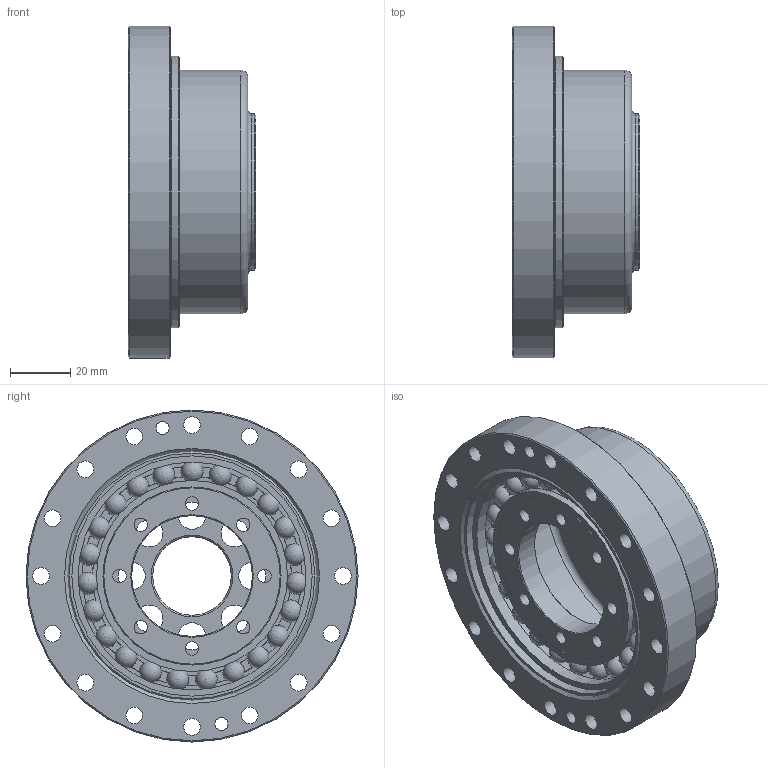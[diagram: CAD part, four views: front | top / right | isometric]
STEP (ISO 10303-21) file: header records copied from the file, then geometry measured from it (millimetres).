
FILE_DESCRIPTION(/* description */ (''),/* implementation_level */ '2;1');
FILE_NAME(/* name */ 'Getriebeset_CTG_81_HS.stp',/* time_stamp */ '2026-03-09T10:53:52+01:00',/* author */ (''),/* organization */ (''),/* preprocessor_version */ 'ST-DEVELOPER v19.4',/* originating_system */ 'SIEMENS PLM Software NX2212.9120',/* authorisation */ '');
FILE_SCHEMA (('AUTOMOTIVE_DESIGN { 1 0 10303 214 3 1 1 1 }'));
Length unit declared in the file: millimetre
Products named in the file (1): Getriebeset_CTG_81_HS
Bounding box: 42.4 x 110 x 110 mm (x, y, z)
Volume: 101166.6 mm3; surface area: 77720.4 mm2
Topology: 29 solids, 29 shells, 223 faces, 637 edges, 432 vertices
Faces by surface type: cylinder 93, plane 59, sphere 27, bspline 21, cone 15, torus 8
Full cylindrical faces by diameter (mm): 4.3 x4, 4.5 x8, 5.5 x16, 9 x8, 26 x1, 40 x1, 52 x1, 55 x1, 59 x2, 63 x1, 63.3 x2, 69.508 x1, 75.5 x2, 79.6 x2, 80.8 x1, 81.5 x1, 83 x1, 90 x1, 110 x1
Entity records: 8474 total; most frequent: CARTESIAN_POINT 3321, DIRECTION 964, ORIENTED_EDGE 882, AXIS2_PLACEMENT_3D 444, EDGE_CURVE 441, EDGE_LOOP 369, VERTEX_POINT 361, FACE_BOUND 289
